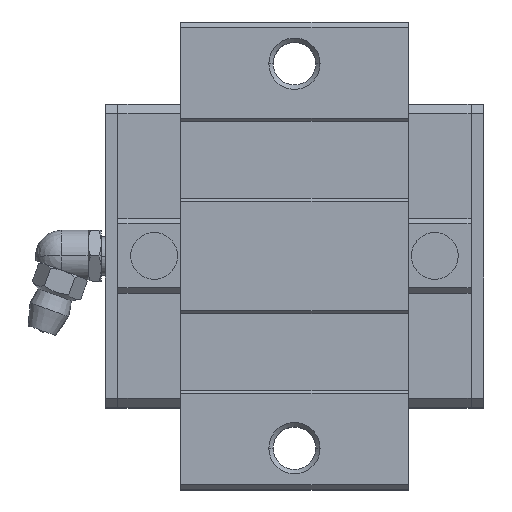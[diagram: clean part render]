
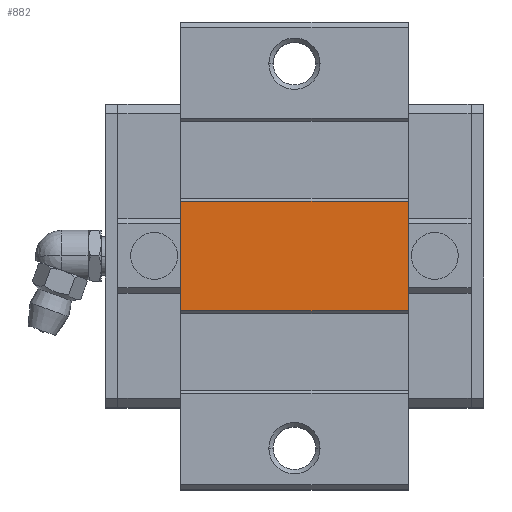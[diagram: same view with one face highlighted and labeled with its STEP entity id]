
A CAD part, top view. The second image highlights one B-rep face of the part: STEP entity #882.
In plain terms, the highlighted planar face has unit normal (0, 0, 1).
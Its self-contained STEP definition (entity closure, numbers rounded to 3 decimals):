
#821=CARTESIAN_POINT('POINT194',(47.3,-8.55,26.));
#822=VERTEX_POINT('VERTEX194',#821);
#829=CARTESIAN_POINT('POINT195',(11.8,-8.55,26.));
#830=VERTEX_POINT('VERTEX195',#829);
#831=CARTESIAN_POINT('POS329',(11.8,-8.55,26.));
#832=DIRECTION('DIR474',(1.,0.,0.));
#833=VECTOR('VEC184',#832,1.);
#834=LINE('STRAIGHT184',#831,#833);
#835=EDGE_CURVE('EDGE301',#830,#822,#834,.T.);
#852=CARTESIAN_POINT('POINT196',(47.3,8.55,
   26.));
#853=VERTEX_POINT('VERTEX196',#852);
#854=CARTESIAN_POINT('POS332',(47.3,8.55,26.)
   );
#855=DIRECTION('DIR478',(0.,1.,0.));
#856=VECTOR('VEC186',#855,1.);
#857=LINE('STRAIGHT186',#854,#856);
#858=EDGE_CURVE('EDGE303',#822,#853,#857,.T.);
#859=ORIENTED_EDGE('COEDGE568',*,*,#858,.T.);
#860=CARTESIAN_POINT('POINT197',(11.8,8.55,
   26.));
#861=VERTEX_POINT('VERTEX197',#860);
#862=CARTESIAN_POINT('POS333',(11.8,8.55,26.)
   );
#863=DIRECTION('DIR479',(1.,0.,0.));
#864=VECTOR('VEC187',#863,1.);
#865=LINE('STRAIGHT187',#862,#864);
#866=EDGE_CURVE('EDGE304',#861,#853,#865,.T.);
#867=ORIENTED_EDGE('COEDGE569',*,*,#866,.F.);
#868=CARTESIAN_POINT('POS334',(11.8,0.,26.));
#869=DIRECTION('DIR480',(0.,-1.,0.));
#870=VECTOR('VEC188',#869,1.);
#871=LINE('STRAIGHT188',#868,#870);
#872=EDGE_CURVE('EDGE305',#861,#830,#871,.T.);
#873=ORIENTED_EDGE('COEDGE570',*,*,#872,.T.);
#874=ORIENTED_EDGE('COEDGE571',*,*,#835,.T.);
#875=EDGE_LOOP('NONE',(#859,#867,#873,#874));
#876=FACE_BOUND('LOOP1',#875,.T.);
#877=CARTESIAN_POINT('POS335',(11.8,0.,26.));
#878=DIRECTION('DIR481',(0.,0.,1.));
#879=DIRECTION('DIR482',(1.,0.,0.));
#880=AXIS2_PLACEMENT_3D('AXIS147',#877,#878,#879);
#881=PLANE('PLANE59',#880);
#882=ADVANCED_FACE('FACE128',(#876),#881,.T.);
